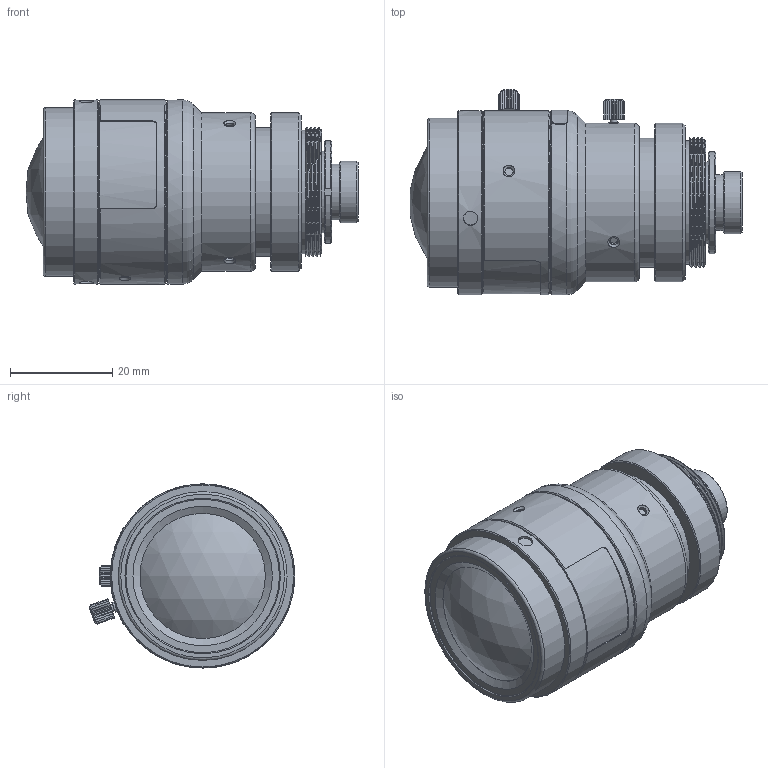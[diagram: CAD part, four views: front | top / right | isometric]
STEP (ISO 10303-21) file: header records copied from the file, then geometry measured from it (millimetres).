
FILE_DESCRIPTION(/* description */ ('STEP AP203'),/* implementation_level */ '2;1');
FILE_NAME(/* name */ 'MY125M',/* time_stamp */ '2024-09-26T01:33:10+02:00',/* author */ ('License CC BY-ND 4.0'),/* organization */ ('CADENAS'),/* preprocessor_version */ 'ST-DEVELOPER v19.3',/* originating_system */ 'PARTsolutions',/* authorisation */ ' ');
FILE_SCHEMA (('CONFIG_CONTROL_DESIGN'));
Length unit declared in the file: millimetre
Products named in the file (2): MY125M; MY125M_PART1
Assembly tree (1 placements, depth 2):
  MY125M
    MY125M_PART1
Bounding box: 64.91 x 40.17 x 36 mm (x, y, z)
Volume: 47449.8 mm3; surface area: 9315.1 mm2
Topology: 1 solids, 1 shells, 260 faces, 698 edges, 474 vertices
Faces by surface type: plane 130, cone 66, cylinder 51, bspline 8, torus 4, sphere 1
Full cylindrical faces by diameter (mm): 1.2 x2, 1.4 x2, 1.6 x4, 2 x2, 2.8 x3, 5.4 x1, 10.922 x1, 12.1 x1, 12.9 x1, 13.5 x1, 16 x1, 21.5 x1, 24.1 x1, 24.5 x1, 25.227 x1, 30 x1, 31 x2, 33 x1, 34.955 x2, 36 x2
Entity records: 11999 total; most frequent: CARTESIAN_POINT 6284, ORIENTED_EDGE 1218, DIRECTION 992, EDGE_CURVE 609, VERTEX_POINT 444, AXIS2_PLACEMENT_3D 387, EDGE_LOOP 353, FACE_BOUND 353
